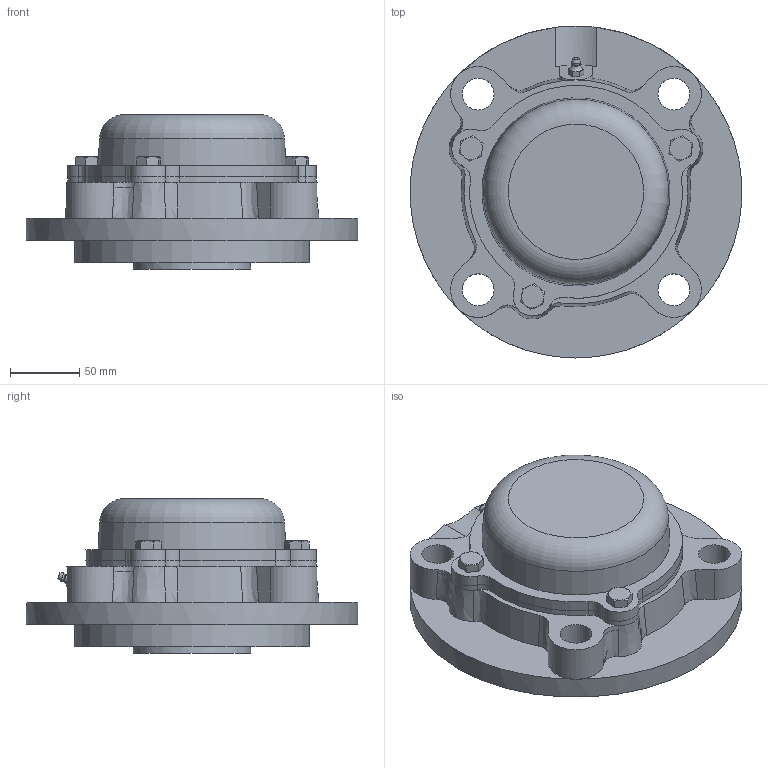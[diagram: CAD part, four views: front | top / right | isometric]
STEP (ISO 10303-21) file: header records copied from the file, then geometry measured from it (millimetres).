
FILE_DESCRIPTION((''),'2;1');
FILE_NAME('\\Ts-tgl068\j-cad-d-base\00.3DCADデータ作成フォルダ\02.フランジ形\CUKFC200\CUKFC216CE+H.stp','2014-05-22T08:58:29',('btec_1106_2'),(''),'Autodesk Inventor 2012','Autodesk Inventor 2012','');
FILE_SCHEMA(('AUTOMOTIVE_DESIGN { 1 0 10303 214 1 1 1 1 }'));
Length unit declared in the file: millimetre
Products named in the file (7): CUKFC200CE+H; CFC216; UK216; G1; 216CE; M10X1
Assembly tree (8 placements, depth 3):
  CUKFC200CE+H
    CFC216
    UK216
    G1
    216CE
      216CE
      M10X1  x3
Bounding box: 240 x 240 x 112 mm (x, y, z)
Volume: 1595635.8 mm3; surface area: 289790.9 mm2
Topology: 7 solids, 7 shells, 322 faces, 801 edges, 508 vertices
Faces by surface type: plane 127, cylinder 91, cone 79, bspline 17, sphere 4, torus 4
Full cylindrical faces by diameter (mm): 8.376 x3, 8.566 x1, 9.728 x1, 10 x3, 12 x3, 23 x4, 70 x1, 80 x1, 98.5 x2, 137 x1, 142 x1, 170 x1, 240 x1
Entity records: 9215 total; most frequent: CARTESIAN_POINT 2553, ORIENTED_EDGE 1350, DIRECTION 1340, EDGE_CURVE 675, AXIS2_PLACEMENT_3D 558, VERTEX_POINT 445, EDGE_LOOP 360, FACE_OUTER_BOUND 288
